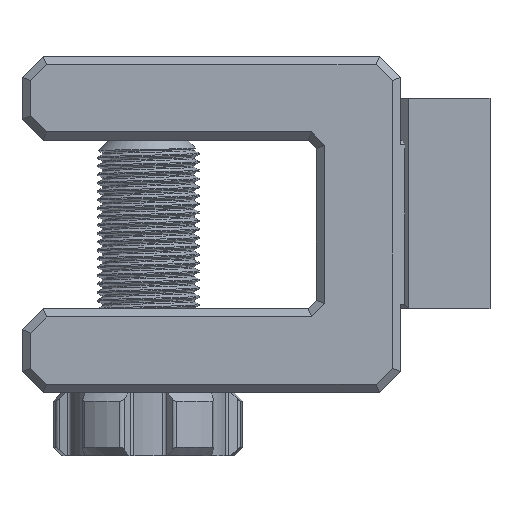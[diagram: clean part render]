
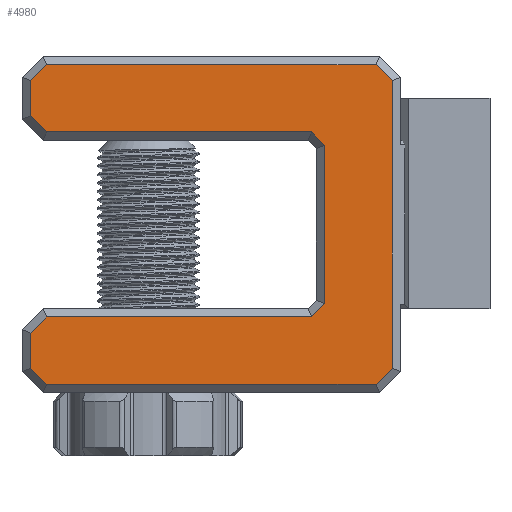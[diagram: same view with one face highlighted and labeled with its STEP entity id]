
A CAD part, left-side view. The second image highlights one B-rep face of the part: STEP entity #4980.
In plain terms, the highlighted planar face has unit normal (-1, 0, 0).
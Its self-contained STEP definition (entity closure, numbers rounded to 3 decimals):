
#637=FACE_OUTER_BOUND('',#920,.T.);
#920=EDGE_LOOP('',(#3737,#3738,#3739,#3740,#3741,#3742,#3743,#3744,#3745,
#3746,#3747,#3748,#3749,#3750,#3751,#3752));
#1134=LINE('',#6702,#1557);
#1222=LINE('',#9917,#1645);
#1226=LINE('',#9925,#1649);
#1229=LINE('',#9931,#1652);
#1232=LINE('',#9936,#1655);
#1234=LINE('',#9940,#1657);
#1237=LINE('',#9945,#1660);
#1240=LINE('',#9951,#1663);
#1243=LINE('',#9957,#1666);
#1246=LINE('',#9963,#1669);
#1249=LINE('',#9969,#1672);
#1252=LINE('',#9975,#1675);
#1255=LINE('',#9981,#1678);
#1258=LINE('',#9987,#1681);
#1261=LINE('',#9993,#1684);
#1264=LINE('',#9997,#1687);
#1557=VECTOR('',#5583,10.);
#1645=VECTOR('',#5769,10.);
#1649=VECTOR('',#5775,10.);
#1652=VECTOR('',#5780,10.);
#1655=VECTOR('',#5785,10.);
#1657=VECTOR('',#5789,10.);
#1660=VECTOR('',#5794,10.);
#1663=VECTOR('',#5799,10.);
#1666=VECTOR('',#5804,10.);
#1669=VECTOR('',#5809,10.);
#1672=VECTOR('',#5814,10.);
#1675=VECTOR('',#5819,10.);
#1678=VECTOR('',#5824,10.);
#1681=VECTOR('',#5829,10.);
#1684=VECTOR('',#5834,10.);
#1687=VECTOR('',#5839,10.);
#1977=VERTEX_POINT('',#6699);
#1978=VERTEX_POINT('',#6701);
#2099=VERTEX_POINT('',#9915);
#2100=VERTEX_POINT('',#9916);
#2103=VERTEX_POINT('',#9924);
#2105=VERTEX_POINT('',#9930);
#2107=VERTEX_POINT('',#9939);
#2108=VERTEX_POINT('',#9944);
#2110=VERTEX_POINT('',#9950);
#2112=VERTEX_POINT('',#9956);
#2114=VERTEX_POINT('',#9962);
#2116=VERTEX_POINT('',#9968);
#2118=VERTEX_POINT('',#9974);
#2120=VERTEX_POINT('',#9980);
#2122=VERTEX_POINT('',#9986);
#2124=VERTEX_POINT('',#9992);
#2483=EDGE_CURVE('',#1977,#1978,#1134,.T.);
#2670=EDGE_CURVE('',#2099,#2100,#1222,.T.);
#2674=EDGE_CURVE('',#2100,#2103,#1226,.T.);
#2677=EDGE_CURVE('',#2103,#2105,#1229,.T.);
#2680=EDGE_CURVE('',#2105,#1977,#1232,.T.);
#2682=EDGE_CURVE('',#1978,#2107,#1234,.T.);
#2685=EDGE_CURVE('',#2107,#2108,#1237,.T.);
#2688=EDGE_CURVE('',#2108,#2110,#1240,.T.);
#2691=EDGE_CURVE('',#2110,#2112,#1243,.T.);
#2694=EDGE_CURVE('',#2112,#2114,#1246,.T.);
#2697=EDGE_CURVE('',#2114,#2116,#1249,.T.);
#2700=EDGE_CURVE('',#2116,#2118,#1252,.T.);
#2703=EDGE_CURVE('',#2118,#2120,#1255,.T.);
#2706=EDGE_CURVE('',#2120,#2122,#1258,.T.);
#2709=EDGE_CURVE('',#2122,#2124,#1261,.T.);
#2712=EDGE_CURVE('',#2124,#2099,#1264,.T.);
#3737=ORIENTED_EDGE('',*,*,#2670,.F.);
#3738=ORIENTED_EDGE('',*,*,#2712,.F.);
#3739=ORIENTED_EDGE('',*,*,#2709,.F.);
#3740=ORIENTED_EDGE('',*,*,#2706,.F.);
#3741=ORIENTED_EDGE('',*,*,#2703,.F.);
#3742=ORIENTED_EDGE('',*,*,#2700,.F.);
#3743=ORIENTED_EDGE('',*,*,#2697,.F.);
#3744=ORIENTED_EDGE('',*,*,#2694,.F.);
#3745=ORIENTED_EDGE('',*,*,#2691,.F.);
#3746=ORIENTED_EDGE('',*,*,#2688,.F.);
#3747=ORIENTED_EDGE('',*,*,#2685,.F.);
#3748=ORIENTED_EDGE('',*,*,#2682,.F.);
#3749=ORIENTED_EDGE('',*,*,#2483,.F.);
#3750=ORIENTED_EDGE('',*,*,#2680,.F.);
#3751=ORIENTED_EDGE('',*,*,#2677,.F.);
#3752=ORIENTED_EDGE('',*,*,#2674,.F.);
#4818=PLANE('',#5268);
#4980=ADVANCED_FACE('',(#637),#4818,.T.);
#5268=AXIS2_PLACEMENT_3D('',#10032,#5873,#5874);
#5583=DIRECTION('',(0.,0.,-1.));
#5769=DIRECTION('',(0.,0.,1.));
#5775=DIRECTION('',(0.,-0.707,0.707));
#5780=DIRECTION('',(0.,-1.,0.));
#5785=DIRECTION('',(0.,-0.707,-0.707));
#5789=DIRECTION('',(0.,0.707,-0.707));
#5794=DIRECTION('',(0.,1.,0.));
#5799=DIRECTION('',(0.,0.707,0.707));
#5804=DIRECTION('',(0.,0.,1.));
#5809=DIRECTION('',(0.,-0.707,0.707));
#5814=DIRECTION('',(0.,-1.,0.));
#5819=DIRECTION('',(0.,-0.707,0.707));
#5824=DIRECTION('',(0.,0.,1.));
#5829=DIRECTION('',(0.,0.707,0.707));
#5834=DIRECTION('',(0.,1.,0.));
#5839=DIRECTION('',(0.,0.707,0.707));
#5873=DIRECTION('center_axis',(-1.,0.,0.));
#5874=DIRECTION('ref_axis',(0.,0.,1.));
#6699=CARTESIAN_POINT('',(-17.5,-53.,34.172));
#6701=CARTESIAN_POINT('',(-17.5,-53.,-34.172));
#6702=CARTESIAN_POINT('',(-17.5,-53.,20.));
#9915=CARTESIAN_POINT('',(-17.5,33.,25.828));
#9916=CARTESIAN_POINT('',(-17.5,33.,34.172));
#9917=CARTESIAN_POINT('',(-17.5,33.,10.));
#9924=CARTESIAN_POINT('',(-17.5,29.172,38.));
#9925=CARTESIAN_POINT('',(-17.5,21.086,46.086));
#9930=CARTESIAN_POINT('',(-17.5,-49.172,38.));
#9931=CARTESIAN_POINT('',(-17.5,-5.,38.));
#9936=CARTESIAN_POINT('',(-17.5,-58.586,28.586));
#9939=CARTESIAN_POINT('',(-17.5,-49.172,-38.));
#9940=CARTESIAN_POINT('',(-17.5,-58.586,-28.586));
#9944=CARTESIAN_POINT('',(-17.5,29.172,-38.));
#9945=CARTESIAN_POINT('',(-17.5,-50.,-38.));
#9950=CARTESIAN_POINT('',(-17.5,33.,-34.172));
#9951=CARTESIAN_POINT('',(-17.5,21.086,-46.086));
#9956=CARTESIAN_POINT('',(-17.5,33.,-25.828));
#9957=CARTESIAN_POINT('',(-17.5,33.,-20.));
#9962=CARTESIAN_POINT('',(-17.5,29.172,-22.));
#9963=CARTESIAN_POINT('',(-17.5,6.086,1.086));
#9968=CARTESIAN_POINT('',(-17.5,-33.828,-22.));
#9969=CARTESIAN_POINT('',(-17.5,-5.,-22.));
#9974=CARTESIAN_POINT('',(-17.5,-37.,-18.828));
#9975=CARTESIAN_POINT('',(-17.5,-42.914,-12.914));
#9980=CARTESIAN_POINT('',(-17.5,-37.,18.828));
#9981=CARTESIAN_POINT('',(-17.5,-37.,-10.));
#9986=CARTESIAN_POINT('',(-17.5,-33.828,22.));
#9987=CARTESIAN_POINT('',(-17.5,-42.914,12.914));
#9992=CARTESIAN_POINT('',(-17.5,29.172,22.));
#9993=CARTESIAN_POINT('',(-17.5,-40.,22.));
#9997=CARTESIAN_POINT('',(-17.5,6.086,-1.086));
#10032=CARTESIAN_POINT('Origin',(-17.5,-45.,0.));
